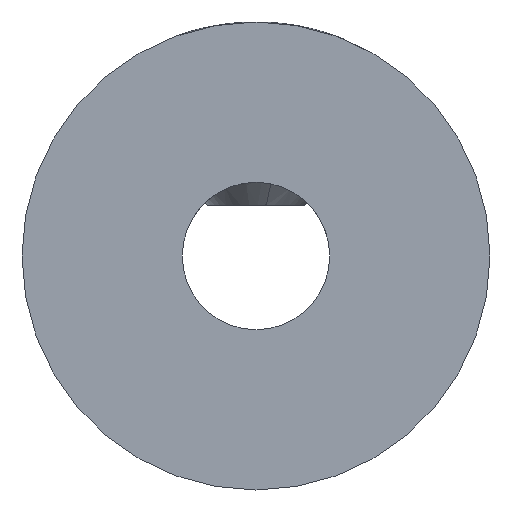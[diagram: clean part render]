
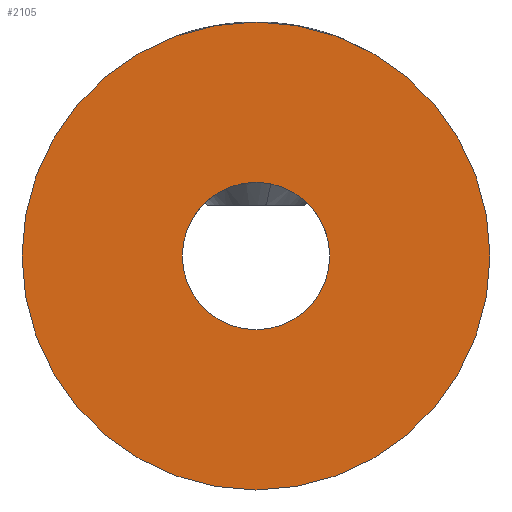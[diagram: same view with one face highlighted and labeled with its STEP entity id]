
A CAD part, front view. The second image highlights one B-rep face of the part: STEP entity #2105.
In plain terms, the highlighted planar face has unit normal (0, -1, 0).
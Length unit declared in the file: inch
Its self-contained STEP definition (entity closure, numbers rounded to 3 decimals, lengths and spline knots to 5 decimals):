
#818 = CARTESIAN_POINT ( 'NONE',  ( 0., 0., 0. ) ) ;
#1112 = CARTESIAN_POINT ( 'NONE',  ( 0., 0., 0. ) ) ;
#1668 = VERTEX_POINT ( 'NONE', #5112 ) ;
#1821 = EDGE_LOOP ( 'NONE', ( #11889, #7295 ) ) ;
#1935 = CIRCLE ( 'NONE', #2262, 0.24985 ) ;
#2105 = ADVANCED_FACE ( 'NONE', ( #12192, #7058 ), #12850, .F. ) ;
#2250 = CIRCLE ( 'NONE', #4937, 0.07874 ) ;
#2262 = AXIS2_PLACEMENT_3D ( 'NONE', #2905, #7301, #13474 ) ;
#2894 = CARTESIAN_POINT ( 'NONE',  ( 0., 0., 0. ) ) ;
#2905 = CARTESIAN_POINT ( 'NONE',  ( 0., 0., 0. ) ) ;
#3178 = ORIENTED_EDGE ( 'NONE', *, *, #10759, .F. ) ;
#3561 = CARTESIAN_POINT ( 'NONE',  ( 0., 0., -0.07874 ) ) ;
#3666 = ORIENTED_EDGE ( 'NONE', *, *, #15513, .F. ) ;
#3859 = CARTESIAN_POINT ( 'NONE',  ( 0., 0., 0.07874 ) ) ;
#4818 = CIRCLE ( 'NONE', #9791, 0.24985 ) ;
#4937 = AXIS2_PLACEMENT_3D ( 'NONE', #1112, #6084, #7293 ) ;
#5112 = CARTESIAN_POINT ( 'NONE',  ( 0., 0., 0.24985 ) ) ;
#5885 = AXIS2_PLACEMENT_3D ( 'NONE', #12693, #7849, #13919 ) ;
#6084 = DIRECTION ( 'NONE',  ( 0., -1., 0. ) ) ;
#6473 = EDGE_CURVE ( 'NONE', #14742, #1668, #1935, .T. ) ;
#6478 = VERTEX_POINT ( 'NONE', #3859 ) ;
#6589 = VERTEX_POINT ( 'NONE', #3561 ) ;
#7058 = FACE_OUTER_BOUND ( 'NONE', #1821, .T. ) ;
#7293 = DIRECTION ( 'NONE',  ( 0., 0., -1. ) ) ;
#7295 = ORIENTED_EDGE ( 'NONE', *, *, #9016, .F. ) ;
#7301 = DIRECTION ( 'NONE',  ( 0., 1., 0. ) ) ;
#7505 = CARTESIAN_POINT ( 'NONE',  ( 0., 0., -0.24985 ) ) ;
#7849 = DIRECTION ( 'NONE',  ( 0., 1., 0. ) ) ;
#9016 = EDGE_CURVE ( 'NONE', #1668, #14742, #4818, .T. ) ;
#9189 = DIRECTION ( 'NONE',  ( 0., 0., -1. ) ) ;
#9791 = AXIS2_PLACEMENT_3D ( 'NONE', #2894, #11492, #12711 ) ;
#10759 = EDGE_CURVE ( 'NONE', #6478, #6589, #2250, .T. ) ;
#11492 = DIRECTION ( 'NONE',  ( 0., 1., 0. ) ) ;
#11874 = CIRCLE ( 'NONE', #15209, 0.07874 ) ;
#11889 = ORIENTED_EDGE ( 'NONE', *, *, #6473, .F. ) ;
#12192 = FACE_BOUND ( 'NONE', #14530, .T. ) ;
#12693 = CARTESIAN_POINT ( 'NONE',  ( 0., 0., 0. ) ) ;
#12711 = DIRECTION ( 'NONE',  ( 0., 0., 1. ) ) ;
#12850 = PLANE ( 'NONE',  #5885 ) ;
#12954 = DIRECTION ( 'NONE',  ( 0., -1., 0. ) ) ;
#13474 = DIRECTION ( 'NONE',  ( 0., 0., 1. ) ) ;
#13919 = DIRECTION ( 'NONE',  ( 0., 0., 1. ) ) ;
#14530 = EDGE_LOOP ( 'NONE', ( #3178, #3666 ) ) ;
#14742 = VERTEX_POINT ( 'NONE', #7505 ) ;
#15209 = AXIS2_PLACEMENT_3D ( 'NONE', #818, #12954, #9189 ) ;
#15513 = EDGE_CURVE ( 'NONE', #6589, #6478, #11874, .T. ) ;
